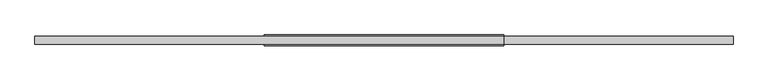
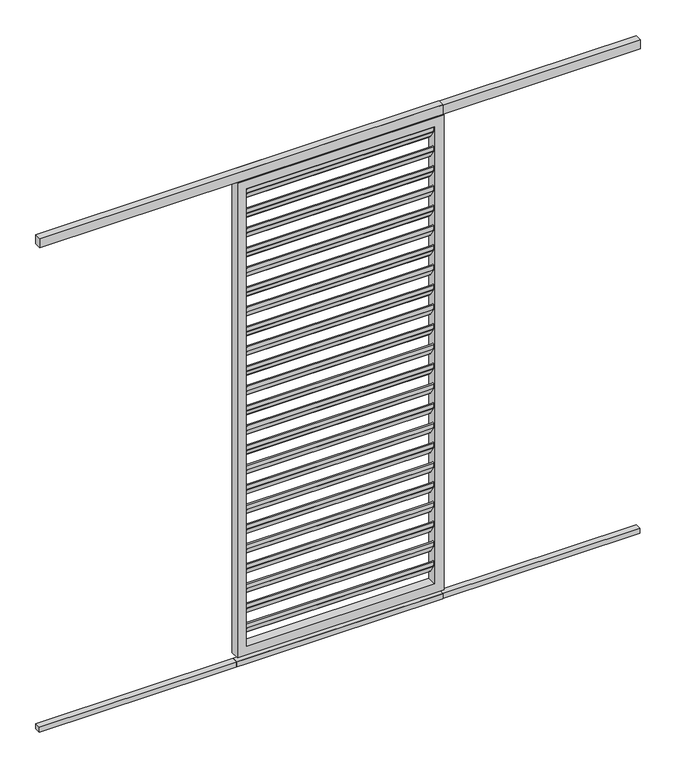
"""IFC4 building model written with IfcOpenShell, lengths in millimetres: proxy geometry, Renson_Camargue_Loggia_Paro_Aluminium : Renson_Camargue_Loggia_Paro_Aluminium."""

from ifc_helpers import new_model, si_unit, point, frame, frame_2d, origin, origin_with_axes, place, context, project, spatial, polyline, circle_curve, trimmed, segment, composite_curve, outline, extrude, source, transform, mapped, element, save


def generic_models_54599b27(model_context):
    return source(origin(), model_context, "Body", "SweptSolid", [
        extrude(outline(composite_curve([segment(polyline([(-10.1515804, 2164.292689), (14.3324079, 2126.5906532), (14.3324079, 2107.3412281)]), True, "CONTINUOUS"), segment(trimmed(circle_curve(frame_2d((11.3324079, 2107.3412281)), 3.0), [point((14.3324079, 2107.3412281))], [point((8.8163962, 2105.707311))], False, "CARTESIAN"), True, "CONTINUOUS"), segment(polyline([(8.8163962, 2105.707311), (-15.1836038, 2142.6640702)]), True, "CONTINUOUS"), segment(trimmed(circle_curve(frame_2d((-12.6675921, 2144.2979873)), 3.0), [point((-15.1836038, 2142.6640702))], [point((-15.6675921, 2144.2979873))], False, "CARTESIAN"), True, "CONTINUOUS"), segment(polyline([(-15.6675921, 2144.2979873), (-15.6675921, 2162.6587719)]), True, "CONTINUOUS"), segment(trimmed(circle_curve(frame_2d((-12.6675921, 2162.6587719)), 3.0), [point((-15.6675921, 2162.6587719))], [point((-10.1515804, 2164.292689))], False, "CARTESIAN"), True, "CONTINUOUS")], self_intersect=False)), frame((-405.0, 0.0, 0.0), z_axis=(1.0, 0.0, 0.0), x_axis=(0.0, 1.0, 0.0)), (0.0, 0.0, 1.0), 810.0),
        extrude(outline(composite_curve([segment(polyline([(-10.1515804, 2074.292689), (14.3324079, 2036.5906532), (14.3324079, 2017.3412281)]), True, "CONTINUOUS"), segment(trimmed(circle_curve(frame_2d((11.3324079, 2017.3412281)), 3.0), [point((14.3324079, 2017.3412281))], [point((8.8163962, 2015.707311))], False, "CARTESIAN"), True, "CONTINUOUS"), segment(polyline([(8.8163962, 2015.707311), (-15.1836038, 2052.6640702)]), True, "CONTINUOUS"), segment(trimmed(circle_curve(frame_2d((-12.6675921, 2054.2979873)), 3.0), [point((-15.1836038, 2052.6640702))], [point((-15.6675921, 2054.2979873))], False, "CARTESIAN"), True, "CONTINUOUS"), segment(polyline([(-15.6675921, 2054.2979873), (-15.6675921, 2072.6587719)]), True, "CONTINUOUS"), segment(trimmed(circle_curve(frame_2d((-12.6675921, 2072.6587719)), 3.0), [point((-15.6675921, 2072.6587719))], [point((-10.1515804, 2074.292689))], False, "CARTESIAN"), True, "CONTINUOUS")], self_intersect=False)), frame((-405.0, 0.0, 0.0), z_axis=(1.0, 0.0, 0.0), x_axis=(0.0, 1.0, 0.0)), (0.0, 0.0, 1.0), 810.0),
        extrude(outline(composite_curve([segment(polyline([(-10.1515804, 1984.292689), (14.3324079, 1946.5906532), (14.3324079, 1927.3412281)]), True, "CONTINUOUS"), segment(trimmed(circle_curve(frame_2d((11.3324079, 1927.3412281)), 3.0), [point((14.3324079, 1927.3412281))], [point((8.8163962, 1925.707311))], False, "CARTESIAN"), True, "CONTINUOUS"), segment(polyline([(8.8163962, 1925.707311), (-15.1836038, 1962.6640702)]), True, "CONTINUOUS"), segment(trimmed(circle_curve(frame_2d((-12.6675921, 1964.2979873)), 3.0), [point((-15.1836038, 1962.6640702))], [point((-15.6675921, 1964.2979873))], False, "CARTESIAN"), True, "CONTINUOUS"), segment(polyline([(-15.6675921, 1964.2979873), (-15.6675921, 1982.6587719)]), True, "CONTINUOUS"), segment(trimmed(circle_curve(frame_2d((-12.6675921, 1982.6587719)), 3.0), [point((-15.6675921, 1982.6587719))], [point((-10.1515804, 1984.292689))], False, "CARTESIAN"), True, "CONTINUOUS")], self_intersect=False)), frame((-405.0, 0.0, 0.0), z_axis=(1.0, 0.0, 0.0), x_axis=(0.0, 1.0, 0.0)), (0.0, 0.0, 1.0), 810.0),
        extrude(outline(composite_curve([segment(polyline([(-10.1515804, 1894.292689), (14.3324079, 1856.5906532), (14.3324079, 1837.3412281)]), True, "CONTINUOUS"), segment(trimmed(circle_curve(frame_2d((11.3324079, 1837.3412281)), 3.0), [point((14.3324079, 1837.3412281))], [point((8.8163962, 1835.707311))], False, "CARTESIAN"), True, "CONTINUOUS"), segment(polyline([(8.8163962, 1835.707311), (-15.1836038, 1872.6640702)]), True, "CONTINUOUS"), segment(trimmed(circle_curve(frame_2d((-12.6675921, 1874.2979873)), 3.0), [point((-15.1836038, 1872.6640702))], [point((-15.6675921, 1874.2979873))], False, "CARTESIAN"), True, "CONTINUOUS"), segment(polyline([(-15.6675921, 1874.2979873), (-15.6675921, 1892.6587719)]), True, "CONTINUOUS"), segment(trimmed(circle_curve(frame_2d((-12.6675921, 1892.6587719)), 3.0), [point((-15.6675921, 1892.6587719))], [point((-10.1515804, 1894.292689))], False, "CARTESIAN"), True, "CONTINUOUS")], self_intersect=False)), frame((-405.0, 0.0, 0.0), z_axis=(1.0, 0.0, 0.0), x_axis=(0.0, 1.0, 0.0)), (0.0, 0.0, 1.0), 810.0),
        extrude(outline(composite_curve([segment(polyline([(-10.1515804, 1804.292689), (14.3324079, 1766.5906532), (14.3324079, 1747.3412281)]), True, "CONTINUOUS"), segment(trimmed(circle_curve(frame_2d((11.3324079, 1747.3412281)), 3.0), [point((14.3324079, 1747.3412281))], [point((8.8163962, 1745.707311))], False, "CARTESIAN"), True, "CONTINUOUS"), segment(polyline([(8.8163962, 1745.707311), (-15.1836038, 1782.6640702)]), True, "CONTINUOUS"), segment(trimmed(circle_curve(frame_2d((-12.6675921, 1784.2979873)), 3.0), [point((-15.1836038, 1782.6640702))], [point((-15.6675921, 1784.2979873))], False, "CARTESIAN"), True, "CONTINUOUS"), segment(polyline([(-15.6675921, 1784.2979873), (-15.6675921, 1802.6587719)]), True, "CONTINUOUS"), segment(trimmed(circle_curve(frame_2d((-12.6675921, 1802.6587719)), 3.0), [point((-15.6675921, 1802.6587719))], [point((-10.1515804, 1804.292689))], False, "CARTESIAN"), True, "CONTINUOUS")], self_intersect=False)), frame((-405.0, 0.0, 0.0), z_axis=(1.0, 0.0, 0.0), x_axis=(0.0, 1.0, 0.0)), (0.0, 0.0, 1.0), 810.0),
        extrude(outline(composite_curve([segment(polyline([(-10.1515804, 1714.292689), (14.3324079, 1676.5906532), (14.3324079, 1657.3412281)]), True, "CONTINUOUS"), segment(trimmed(circle_curve(frame_2d((11.3324079, 1657.3412281)), 3.0), [point((14.3324079, 1657.3412281))], [point((8.8163962, 1655.707311))], False, "CARTESIAN"), True, "CONTINUOUS"), segment(polyline([(8.8163962, 1655.707311), (-15.1836038, 1692.6640702)]), True, "CONTINUOUS"), segment(trimmed(circle_curve(frame_2d((-12.6675921, 1694.2979873)), 3.0), [point((-15.1836038, 1692.6640702))], [point((-15.6675921, 1694.2979873))], False, "CARTESIAN"), True, "CONTINUOUS"), segment(polyline([(-15.6675921, 1694.2979873), (-15.6675921, 1712.6587719)]), True, "CONTINUOUS"), segment(trimmed(circle_curve(frame_2d((-12.6675921, 1712.6587719)), 3.0), [point((-15.6675921, 1712.6587719))], [point((-10.1515804, 1714.292689))], False, "CARTESIAN"), True, "CONTINUOUS")], self_intersect=False)), frame((-405.0, 0.0, 0.0), z_axis=(1.0, 0.0, 0.0), x_axis=(0.0, 1.0, 0.0)), (0.0, 0.0, 1.0), 810.0),
        extrude(outline(composite_curve([segment(polyline([(-10.1515804, 1624.292689), (14.3324079, 1586.5906532), (14.3324079, 1567.3412281)]), True, "CONTINUOUS"), segment(trimmed(circle_curve(frame_2d((11.3324079, 1567.3412281)), 3.0), [point((14.3324079, 1567.3412281))], [point((8.8163962, 1565.707311))], False, "CARTESIAN"), True, "CONTINUOUS"), segment(polyline([(8.8163962, 1565.707311), (-15.1836038, 1602.6640702)]), True, "CONTINUOUS"), segment(trimmed(circle_curve(frame_2d((-12.6675921, 1604.2979873)), 3.0), [point((-15.1836038, 1602.6640702))], [point((-15.6675921, 1604.2979873))], False, "CARTESIAN"), True, "CONTINUOUS"), segment(polyline([(-15.6675921, 1604.2979873), (-15.6675921, 1622.6587719)]), True, "CONTINUOUS"), segment(trimmed(circle_curve(frame_2d((-12.6675921, 1622.6587719)), 3.0), [point((-15.6675921, 1622.6587719))], [point((-10.1515804, 1624.292689))], False, "CARTESIAN"), True, "CONTINUOUS")], self_intersect=False)), frame((-405.0, 0.0, 0.0), z_axis=(1.0, 0.0, 0.0), x_axis=(0.0, 1.0, 0.0)), (0.0, 0.0, 1.0), 810.0),
        extrude(outline(composite_curve([segment(polyline([(-10.1515804, 1534.292689), (14.3324079, 1496.5906532), (14.3324079, 1477.3412281)]), True, "CONTINUOUS"), segment(trimmed(circle_curve(frame_2d((11.3324079, 1477.3412281)), 3.0), [point((14.3324079, 1477.3412281))], [point((8.8163962, 1475.707311))], False, "CARTESIAN"), True, "CONTINUOUS"), segment(polyline([(8.8163962, 1475.707311), (-15.1836038, 1512.6640702)]), True, "CONTINUOUS"), segment(trimmed(circle_curve(frame_2d((-12.6675921, 1514.2979873)), 3.0), [point((-15.1836038, 1512.6640702))], [point((-15.6675921, 1514.2979873))], False, "CARTESIAN"), True, "CONTINUOUS"), segment(polyline([(-15.6675921, 1514.2979873), (-15.6675921, 1532.6587719)]), True, "CONTINUOUS"), segment(trimmed(circle_curve(frame_2d((-12.6675921, 1532.6587719)), 3.0), [point((-15.6675921, 1532.6587719))], [point((-10.1515804, 1534.292689))], False, "CARTESIAN"), True, "CONTINUOUS")], self_intersect=False)), frame((-405.0, 0.0, 0.0), z_axis=(1.0, 0.0, 0.0), x_axis=(0.0, 1.0, 0.0)), (0.0, 0.0, 1.0), 810.0),
        extrude(outline(composite_curve([segment(polyline([(-10.1515804, 1444.292689), (14.3324079, 1406.5906532), (14.3324079, 1387.3412281)]), True, "CONTINUOUS"), segment(trimmed(circle_curve(frame_2d((11.3324079, 1387.3412281)), 3.0), [point((14.3324079, 1387.3412281))], [point((8.8163962, 1385.707311))], False, "CARTESIAN"), True, "CONTINUOUS"), segment(polyline([(8.8163962, 1385.707311), (-15.1836038, 1422.6640702)]), True, "CONTINUOUS"), segment(trimmed(circle_curve(frame_2d((-12.6675921, 1424.2979873)), 3.0), [point((-15.1836038, 1422.6640702))], [point((-15.6675921, 1424.2979873))], False, "CARTESIAN"), True, "CONTINUOUS"), segment(polyline([(-15.6675921, 1424.2979873), (-15.6675921, 1442.6587719)]), True, "CONTINUOUS"), segment(trimmed(circle_curve(frame_2d((-12.6675921, 1442.6587719)), 3.0), [point((-15.6675921, 1442.6587719))], [point((-10.1515804, 1444.292689))], False, "CARTESIAN"), True, "CONTINUOUS")], self_intersect=False)), frame((-405.0, 0.0, 0.0), z_axis=(1.0, 0.0, 0.0), x_axis=(0.0, 1.0, 0.0)), (0.0, 0.0, 1.0), 810.0),
        extrude(outline(composite_curve([segment(polyline([(-10.1515804, 1354.292689), (14.3324079, 1316.5906532), (14.3324079, 1297.3412281)]), True, "CONTINUOUS"), segment(trimmed(circle_curve(frame_2d((11.3324079, 1297.3412281)), 3.0), [point((14.3324079, 1297.3412281))], [point((8.8163962, 1295.707311))], False, "CARTESIAN"), True, "CONTINUOUS"), segment(polyline([(8.8163962, 1295.707311), (-15.1836038, 1332.6640702)]), True, "CONTINUOUS"), segment(trimmed(circle_curve(frame_2d((-12.6675921, 1334.2979873)), 3.0), [point((-15.1836038, 1332.6640702))], [point((-15.6675921, 1334.2979873))], False, "CARTESIAN"), True, "CONTINUOUS"), segment(polyline([(-15.6675921, 1334.2979873), (-15.6675921, 1352.6587719)]), True, "CONTINUOUS"), segment(trimmed(circle_curve(frame_2d((-12.6675921, 1352.6587719)), 3.0), [point((-15.6675921, 1352.6587719))], [point((-10.1515804, 1354.292689))], False, "CARTESIAN"), True, "CONTINUOUS")], self_intersect=False)), frame((-405.0, 0.0, 0.0), z_axis=(1.0, 0.0, 0.0), x_axis=(0.0, 1.0, 0.0)), (0.0, 0.0, 1.0), 810.0),
        extrude(outline(composite_curve([segment(polyline([(-10.1515804, 1264.292689), (14.3324079, 1226.5906532), (14.3324079, 1207.3412281)]), True, "CONTINUOUS"), segment(trimmed(circle_curve(frame_2d((11.3324079, 1207.3412281)), 3.0), [point((14.3324079, 1207.3412281))], [point((8.8163962, 1205.707311))], False, "CARTESIAN"), True, "CONTINUOUS"), segment(polyline([(8.8163962, 1205.707311), (-15.1836038, 1242.6640702)]), True, "CONTINUOUS"), segment(trimmed(circle_curve(frame_2d((-12.6675921, 1244.2979873)), 3.0), [point((-15.1836038, 1242.6640702))], [point((-15.6675921, 1244.2979873))], False, "CARTESIAN"), True, "CONTINUOUS"), segment(polyline([(-15.6675921, 1244.2979873), (-15.6675921, 1262.6587719)]), True, "CONTINUOUS"), segment(trimmed(circle_curve(frame_2d((-12.6675921, 1262.6587719)), 3.0), [point((-15.6675921, 1262.6587719))], [point((-10.1515804, 1264.292689))], False, "CARTESIAN"), True, "CONTINUOUS")], self_intersect=False)), frame((-405.0, 0.0, 0.0), z_axis=(1.0, 0.0, 0.0), x_axis=(0.0, 1.0, 0.0)), (0.0, 0.0, 1.0), 810.0),
        extrude(outline(composite_curve([segment(polyline([(-10.1515804, 1174.292689), (14.3324079, 1136.5906532), (14.3324079, 1117.3412281)]), True, "CONTINUOUS"), segment(trimmed(circle_curve(frame_2d((11.3324079, 1117.3412281)), 3.0), [point((14.3324079, 1117.3412281))], [point((8.8163962, 1115.707311))], False, "CARTESIAN"), True, "CONTINUOUS"), segment(polyline([(8.8163962, 1115.707311), (-15.1836038, 1152.6640702)]), True, "CONTINUOUS"), segment(trimmed(circle_curve(frame_2d((-12.6675921, 1154.2979873)), 3.0), [point((-15.1836038, 1152.6640702))], [point((-15.6675921, 1154.2979873))], False, "CARTESIAN"), True, "CONTINUOUS"), segment(polyline([(-15.6675921, 1154.2979873), (-15.6675921, 1172.6587719)]), True, "CONTINUOUS"), segment(trimmed(circle_curve(frame_2d((-12.6675921, 1172.6587719)), 3.0), [point((-15.6675921, 1172.6587719))], [point((-10.1515804, 1174.292689))], False, "CARTESIAN"), True, "CONTINUOUS")], self_intersect=False)), frame((-405.0, 0.0, 0.0), z_axis=(1.0, 0.0, 0.0), x_axis=(0.0, 1.0, 0.0)), (0.0, 0.0, 1.0), 810.0),
        extrude(outline(composite_curve([segment(polyline([(-10.1515804, 1084.292689), (14.3324079, 1046.5906532), (14.3324079, 1027.3412281)]), True, "CONTINUOUS"), segment(trimmed(circle_curve(frame_2d((11.3324079, 1027.3412281)), 3.0), [point((14.3324079, 1027.3412281))], [point((8.8163962, 1025.707311))], False, "CARTESIAN"), True, "CONTINUOUS"), segment(polyline([(8.8163962, 1025.707311), (-15.1836038, 1062.6640702)]), True, "CONTINUOUS"), segment(trimmed(circle_curve(frame_2d((-12.6675921, 1064.2979873)), 3.0), [point((-15.1836038, 1062.6640702))], [point((-15.6675921, 1064.2979873))], False, "CARTESIAN"), True, "CONTINUOUS"), segment(polyline([(-15.6675921, 1064.2979873), (-15.6675921, 1082.6587719)]), True, "CONTINUOUS"), segment(trimmed(circle_curve(frame_2d((-12.6675921, 1082.6587719)), 3.0), [point((-15.6675921, 1082.6587719))], [point((-10.1515804, 1084.292689))], False, "CARTESIAN"), True, "CONTINUOUS")], self_intersect=False)), frame((-405.0, 0.0, 0.0), z_axis=(1.0, 0.0, 0.0), x_axis=(0.0, 1.0, 0.0)), (0.0, 0.0, 1.0), 810.0),
        extrude(outline(composite_curve([segment(polyline([(-10.1515804, 994.292689), (14.3324079, 956.5906532), (14.3324079, 937.3412281)]), True, "CONTINUOUS"), segment(trimmed(circle_curve(frame_2d((11.3324079, 937.3412281)), 3.0), [point((14.3324079, 937.3412281))], [point((8.8163962, 935.707311))], False, "CARTESIAN"), True, "CONTINUOUS"), segment(polyline([(8.8163962, 935.707311), (-15.1836038, 972.6640702)]), True, "CONTINUOUS"), segment(trimmed(circle_curve(frame_2d((-12.6675921, 974.2979873)), 3.0), [point((-15.1836038, 972.6640702))], [point((-15.6675921, 974.2979873))], False, "CARTESIAN"), True, "CONTINUOUS"), segment(polyline([(-15.6675921, 974.2979873), (-15.6675921, 992.6587719)]), True, "CONTINUOUS"), segment(trimmed(circle_curve(frame_2d((-12.6675921, 992.6587719)), 3.0), [point((-15.6675921, 992.6587719))], [point((-10.1515804, 994.292689))], False, "CARTESIAN"), True, "CONTINUOUS")], self_intersect=False)), frame((-405.0, 0.0, 0.0), z_axis=(1.0, 0.0, 0.0), x_axis=(0.0, 1.0, 0.0)), (0.0, 0.0, 1.0), 810.0),
        extrude(outline(composite_curve([segment(polyline([(-10.1515804, 904.292689), (14.3324079, 866.5906532), (14.3324079, 847.3412281)]), True, "CONTINUOUS"), segment(trimmed(circle_curve(frame_2d((11.3324079, 847.3412281)), 3.0), [point((14.3324079, 847.3412281))], [point((8.8163962, 845.707311))], False, "CARTESIAN"), True, "CONTINUOUS"), segment(polyline([(8.8163962, 845.707311), (-15.1836038, 882.6640702)]), True, "CONTINUOUS"), segment(trimmed(circle_curve(frame_2d((-12.6675921, 884.2979873)), 3.0), [point((-15.1836038, 882.6640702))], [point((-15.6675921, 884.2979873))], False, "CARTESIAN"), True, "CONTINUOUS"), segment(polyline([(-15.6675921, 884.2979873), (-15.6675921, 902.6587719)]), True, "CONTINUOUS"), segment(trimmed(circle_curve(frame_2d((-12.6675921, 902.6587719)), 3.0), [point((-15.6675921, 902.6587719))], [point((-10.1515804, 904.292689))], False, "CARTESIAN"), True, "CONTINUOUS")], self_intersect=False)), frame((-405.0, 0.0, 0.0), z_axis=(1.0, 0.0, 0.0), x_axis=(0.0, 1.0, 0.0)), (0.0, 0.0, 1.0), 810.0),
        extrude(outline(composite_curve([segment(polyline([(-10.1515804, 814.292689), (14.3324079, 776.5906532), (14.3324079, 757.3412281)]), True, "CONTINUOUS"), segment(trimmed(circle_curve(frame_2d((11.3324079, 757.3412281)), 3.0), [point((14.3324079, 757.3412281))], [point((8.8163962, 755.707311))], False, "CARTESIAN"), True, "CONTINUOUS"), segment(polyline([(8.8163962, 755.707311), (-15.1836038, 792.6640702)]), True, "CONTINUOUS"), segment(trimmed(circle_curve(frame_2d((-12.6675921, 794.2979873)), 3.0), [point((-15.1836038, 792.6640702))], [point((-15.6675921, 794.2979873))], False, "CARTESIAN"), True, "CONTINUOUS"), segment(polyline([(-15.6675921, 794.2979873), (-15.6675921, 812.6587719)]), True, "CONTINUOUS"), segment(trimmed(circle_curve(frame_2d((-12.6675921, 812.6587719)), 3.0), [point((-15.6675921, 812.6587719))], [point((-10.1515804, 814.292689))], False, "CARTESIAN"), True, "CONTINUOUS")], self_intersect=False)), frame((-405.0, 0.0, 0.0), z_axis=(1.0, 0.0, 0.0), x_axis=(0.0, 1.0, 0.0)), (0.0, 0.0, 1.0), 810.0),
        extrude(outline(composite_curve([segment(polyline([(-10.1515804, 724.292689), (14.3324079, 686.5906532), (14.3324079, 667.3412281)]), True, "CONTINUOUS"), segment(trimmed(circle_curve(frame_2d((11.3324079, 667.3412281)), 3.0), [point((14.3324079, 667.3412281))], [point((8.8163962, 665.707311))], False, "CARTESIAN"), True, "CONTINUOUS"), segment(polyline([(8.8163962, 665.707311), (-15.1836038, 702.6640702)]), True, "CONTINUOUS"), segment(trimmed(circle_curve(frame_2d((-12.6675921, 704.2979873)), 3.0), [point((-15.1836038, 702.6640702))], [point((-15.6675921, 704.2979873))], False, "CARTESIAN"), True, "CONTINUOUS"), segment(polyline([(-15.6675921, 704.2979873), (-15.6675921, 722.6587719)]), True, "CONTINUOUS"), segment(trimmed(circle_curve(frame_2d((-12.6675921, 722.6587719)), 3.0), [point((-15.6675921, 722.6587719))], [point((-10.1515804, 724.292689))], False, "CARTESIAN"), True, "CONTINUOUS")], self_intersect=False)), frame((-405.0, 0.0, 0.0), z_axis=(1.0, 0.0, 0.0), x_axis=(0.0, 1.0, 0.0)), (0.0, 0.0, 1.0), 810.0),
        extrude(outline(composite_curve([segment(polyline([(-10.1515804, 634.292689), (14.3324079, 596.5906532), (14.3324079, 577.3412281)]), True, "CONTINUOUS"), segment(trimmed(circle_curve(frame_2d((11.3324079, 577.3412281)), 3.0), [point((14.3324079, 577.3412281))], [point((8.8163962, 575.707311))], False, "CARTESIAN"), True, "CONTINUOUS"), segment(polyline([(8.8163962, 575.707311), (-15.1836038, 612.6640702)]), True, "CONTINUOUS"), segment(trimmed(circle_curve(frame_2d((-12.6675921, 614.2979873)), 3.0), [point((-15.1836038, 612.6640702))], [point((-15.6675921, 614.2979873))], False, "CARTESIAN"), True, "CONTINUOUS"), segment(polyline([(-15.6675921, 614.2979873), (-15.6675921, 632.6587719)]), True, "CONTINUOUS"), segment(trimmed(circle_curve(frame_2d((-12.6675921, 632.6587719)), 3.0), [point((-15.6675921, 632.6587719))], [point((-10.1515804, 634.292689))], False, "CARTESIAN"), True, "CONTINUOUS")], self_intersect=False)), frame((-405.0, 0.0, 0.0), z_axis=(1.0, 0.0, 0.0), x_axis=(0.0, 1.0, 0.0)), (0.0, 0.0, 1.0), 810.0),
        extrude(outline(composite_curve([segment(polyline([(-10.1515804, 544.292689), (14.3324079, 506.5906532), (14.3324079, 487.3412281)]), True, "CONTINUOUS"), segment(trimmed(circle_curve(frame_2d((11.3324079, 487.3412281)), 3.0), [point((14.3324079, 487.3412281))], [point((8.8163962, 485.707311))], False, "CARTESIAN"), True, "CONTINUOUS"), segment(polyline([(8.8163962, 485.707311), (-15.1836038, 522.6640702)]), True, "CONTINUOUS"), segment(trimmed(circle_curve(frame_2d((-12.6675921, 524.2979873)), 3.0), [point((-15.1836038, 522.6640702))], [point((-15.6675921, 524.2979873))], False, "CARTESIAN"), True, "CONTINUOUS"), segment(polyline([(-15.6675921, 524.2979873), (-15.6675921, 542.6587719)]), True, "CONTINUOUS"), segment(trimmed(circle_curve(frame_2d((-12.6675921, 542.6587719)), 3.0), [point((-15.6675921, 542.6587719))], [point((-10.1515804, 544.292689))], False, "CARTESIAN"), True, "CONTINUOUS")], self_intersect=False)), frame((-405.0, 0.0, 0.0), z_axis=(1.0, 0.0, 0.0), x_axis=(0.0, 1.0, 0.0)), (0.0, 0.0, 1.0), 810.0),
        extrude(outline(composite_curve([segment(polyline([(-10.1515804, 454.292689), (14.3324079, 416.5906532), (14.3324079, 397.3412281)]), True, "CONTINUOUS"), segment(trimmed(circle_curve(frame_2d((11.3324079, 397.3412281)), 3.0), [point((14.3324079, 397.3412281))], [point((8.8163962, 395.707311))], False, "CARTESIAN"), True, "CONTINUOUS"), segment(polyline([(8.8163962, 395.707311), (-15.1836038, 432.6640702)]), True, "CONTINUOUS"), segment(trimmed(circle_curve(frame_2d((-12.6675921, 434.2979873)), 3.0), [point((-15.1836038, 432.6640702))], [point((-15.6675921, 434.2979873))], False, "CARTESIAN"), True, "CONTINUOUS"), segment(polyline([(-15.6675921, 434.2979873), (-15.6675921, 452.6587719)]), True, "CONTINUOUS"), segment(trimmed(circle_curve(frame_2d((-12.6675921, 452.6587719)), 3.0), [point((-15.6675921, 452.6587719))], [point((-10.1515804, 454.292689))], False, "CARTESIAN"), True, "CONTINUOUS")], self_intersect=False)), frame((-405.0, 0.0, 0.0), z_axis=(1.0, 0.0, 0.0), x_axis=(0.0, 1.0, 0.0)), (0.0, 0.0, 1.0), 810.0),
        extrude(outline(composite_curve([segment(polyline([(-10.1515804, 364.292689), (14.3324079, 326.5906532), (14.3324079, 307.3412281)]), True, "CONTINUOUS"), segment(trimmed(circle_curve(frame_2d((11.3324079, 307.3412281)), 3.0), [point((14.3324079, 307.3412281))], [point((8.8163962, 305.707311))], False, "CARTESIAN"), True, "CONTINUOUS"), segment(polyline([(8.8163962, 305.707311), (-15.1836038, 342.6640702)]), True, "CONTINUOUS"), segment(trimmed(circle_curve(frame_2d((-12.6675921, 344.2979873)), 3.0), [point((-15.1836038, 342.6640702))], [point((-15.6675921, 344.2979873))], False, "CARTESIAN"), True, "CONTINUOUS"), segment(polyline([(-15.6675921, 344.2979873), (-15.6675921, 362.6587719)]), True, "CONTINUOUS"), segment(trimmed(circle_curve(frame_2d((-12.6675921, 362.6587719)), 3.0), [point((-15.6675921, 362.6587719))], [point((-10.1515804, 364.292689))], False, "CARTESIAN"), True, "CONTINUOUS")], self_intersect=False)), frame((-405.0, 0.0, 0.0), z_axis=(1.0, 0.0, 0.0), x_axis=(0.0, 1.0, 0.0)), (0.0, 0.0, 1.0), 810.0),
        extrude(outline(composite_curve([segment(polyline([(-10.1515804, 274.292689), (14.3324079, 236.5906532), (14.3324079, 217.3412281)]), True, "CONTINUOUS"), segment(trimmed(circle_curve(frame_2d((11.3324079, 217.3412281)), 3.0), [point((14.3324079, 217.3412281))], [point((8.8163962, 215.707311))], False, "CARTESIAN"), True, "CONTINUOUS"), segment(polyline([(8.8163962, 215.707311), (-15.1836038, 252.6640702)]), True, "CONTINUOUS"), segment(trimmed(circle_curve(frame_2d((-12.6675921, 254.2979873)), 3.0), [point((-15.1836038, 252.6640702))], [point((-15.6675921, 254.2979873))], False, "CARTESIAN"), True, "CONTINUOUS"), segment(polyline([(-15.6675921, 254.2979873), (-15.6675921, 272.6587719)]), True, "CONTINUOUS"), segment(trimmed(circle_curve(frame_2d((-12.6675921, 272.6587719)), 3.0), [point((-15.6675921, 272.6587719))], [point((-10.1515804, 274.292689))], False, "CARTESIAN"), True, "CONTINUOUS")], self_intersect=False)), frame((-405.0, 0.0, 0.0), z_axis=(1.0, 0.0, 0.0), x_axis=(0.0, 1.0, 0.0)), (0.0, 0.0, 1.0), 810.0),
        extrude(outline(composite_curve([segment(polyline([(-10.1515804, 184.292689), (14.3324079, 146.5906532), (14.3324079, 127.3412281)]), True, "CONTINUOUS"), segment(trimmed(circle_curve(frame_2d((11.3324079, 127.3412281)), 3.0), [point((14.3324079, 127.3412281))], [point((8.8163962, 125.707311))], False, "CARTESIAN"), True, "CONTINUOUS"), segment(polyline([(8.8163962, 125.707311), (-15.1836038, 162.6640702)]), True, "CONTINUOUS"), segment(trimmed(circle_curve(frame_2d((-12.6675921, 164.2979873)), 3.0), [point((-15.1836038, 162.6640702))], [point((-15.6675921, 164.2979873))], False, "CARTESIAN"), True, "CONTINUOUS"), segment(polyline([(-15.6675921, 164.2979873), (-15.6675921, 182.6587719)]), True, "CONTINUOUS"), segment(trimmed(circle_curve(frame_2d((-12.6675921, 182.6587719)), 3.0), [point((-15.6675921, 182.6587719))], [point((-10.1515804, 184.292689))], False, "CARTESIAN"), True, "CONTINUOUS")], self_intersect=False)), frame((-405.0, 0.0, 0.0), z_axis=(1.0, 0.0, 0.0), x_axis=(0.0, 1.0, 0.0)), (0.0, 0.0, 1.0), 810.0),
        extrude(outline(polyline([(445.0, -15.0), (-1295.0, -15.0), (-1295.0, 15.0), (445.0, 15.0), (445.0, -15.0)])), frame((0.0, 0.0, 2207.7138321), z_axis=(0.0, 0.0, 1.0), x_axis=(1.0, 0.0, 0.0)), (0.0, 0.0, 1.0), 42.2861679),
        extrude(outline(polyline([(1295.0, -15.0), (-445.0, -15.0), (-445.0, 15.0), (1295.0, 15.0), (1295.0, -15.0)])), frame((0.0, 0.0, 2207.7138321), z_axis=(0.0, 0.0, 1.0), x_axis=(1.0, 0.0, 0.0)), (0.0, 0.0, 1.0), 42.2861679),
        extrude(outline(polyline([(445.0, 13.0), (445.0, -14.0), (-1295.0, -14.0), (-1295.0, 13.0), (445.0, 13.0)])), origin_with_axes(), (0.0, 0.0, 1.0), 23.0),
        extrude(outline(polyline([(1295.0, 13.0), (1295.0, -14.0), (-445.0, -14.0), (-445.0, 13.0), (1295.0, 13.0)])), origin_with_axes(), (0.0, 0.0, 1.0), 23.0),
        extrude(outline(polyline([(2207.7138321, 445.0), (2207.7138321, -445.0), (45.0, -445.0), (45.0, 445.0), (2207.7138321, 445.0)]), holes=[polyline([(2167.7138321, -405.0), (2167.7138321, 405.0), (85.0, 405.0), (85.0, -405.0), (2167.7138321, -405.0)])]), frame((0.0, -20.0, 0.0), z_axis=(0.0, 1.0, 0.0), x_axis=(0.0, 0.0, 1.0)), (0.0, 0.0, 1.0), 40.0),
    ])


if __name__ == "__main__":
    model = new_model("IFC4")
    model_context = context("Model", 3, world=origin())
    ifc_project = project(units=[si_unit("LENGTHUNIT", "METRE", prefix="MILLI")], contexts=[model_context])
    site = spatial("IfcSite", under=ifc_project)
    building = spatial("IfcBuilding", under=site)
    placement = place(None, origin())
    generic_models_shape = generic_models_54599b27(model_context)
    element("IfcBuildingElementProxy", 1, Name="Renson_Camargue_Loggia_Paro_Aluminium : Renson_Camargue_Loggia_Paro_Aluminium", ObjectType="Renson_Camargue_Loggia_Paro_Aluminium : Renson_Camargue_Loggia_Paro_Aluminium", at=placement, inside=building, context=model_context, shape_type="MappedRepresentation", body=[
        mapped(generic_models_shape, transform((0.0, 0.0, 0.0), x_axis=(1.0, 0.0, 0.0), y_axis=(0.0, 1.0, 0.0), z_axis=(0.0, 0.0, 1.0))),
    ])
    save(model, "model.ifc")
